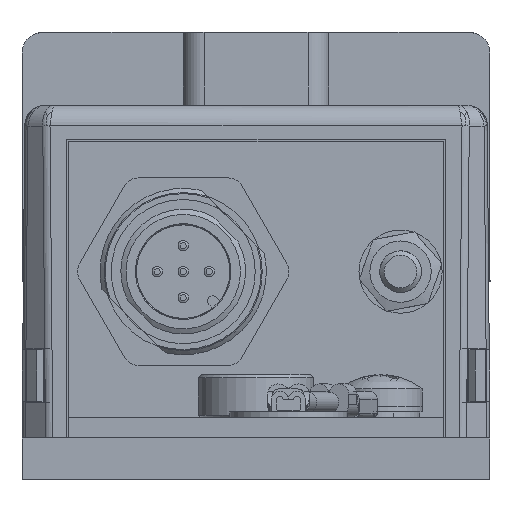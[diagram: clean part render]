
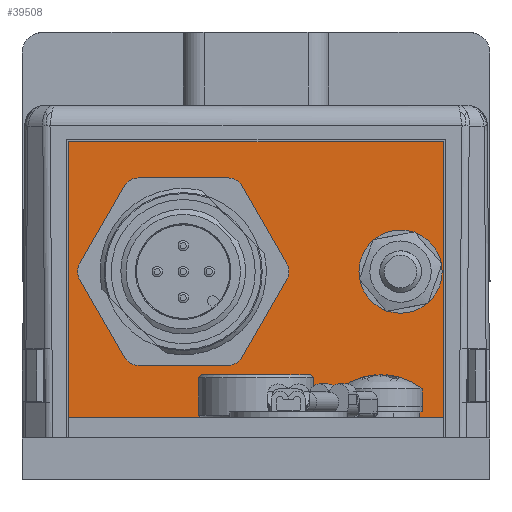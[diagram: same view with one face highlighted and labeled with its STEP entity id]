
A CAD part, left-side view. The second image highlights one B-rep face of the part: STEP entity #39508.
In plain terms, the highlighted planar face has unit normal (-1, 0, 0) as drawn and (1, 0, 0) by its records, which use the part's own axes.
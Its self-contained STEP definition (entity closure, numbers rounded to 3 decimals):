
#11285=CIRCLE('',#38369,7.75);
#11286=CIRCLE('',#38370,2.25);
#12321=ORIENTED_EDGE('',*,*,#16183,.T.);
#12322=ORIENTED_EDGE('',*,*,#16187,.T.);
#12323=ORIENTED_EDGE('',*,*,#16192,.T.);
#12324=ORIENTED_EDGE('',*,*,#16193,.F.);
#12325=ORIENTED_EDGE('',*,*,#16194,.F.);
#12326=ORIENTED_EDGE('',*,*,#16195,.F.);
#14012=VECTOR('',#19663,1.);
#14016=VECTOR('',#19669,1.);
#14019=VECTOR('',#19678,1.);
#14020=VECTOR('',#19679,1.);
#14573=LINE('',#22363,#14012);
#14577=LINE('',#22370,#14016);
#14580=LINE('',#22380,#14019);
#14581=LINE('',#22381,#14020);
#15273=VERTEX_POINT('',#22359);
#15275=VERTEX_POINT('',#22362);
#15277=VERTEX_POINT('',#22369);
#15281=VERTEX_POINT('',#22379);
#15282=VERTEX_POINT('',#22382);
#15283=VERTEX_POINT('',#22384);
#16183=EDGE_CURVE('',#15275,#15273,#14573,.T.);
#16187=EDGE_CURVE('',#15273,#15277,#14577,.T.);
#16192=EDGE_CURVE('',#15277,#15281,#14580,.T.);
#16193=EDGE_CURVE('',#15275,#15281,#14581,.T.);
#16194=EDGE_CURVE('',#15282,#15282,#11285,.T.);
#16195=EDGE_CURVE('',#15283,#15283,#11286,.T.);
#17304=EDGE_LOOP('',(#12321,#12322,#12323,#12324));
#17305=EDGE_LOOP('',(#12325));
#17306=EDGE_LOOP('',(#12326));
#18112=FACE_BOUND('',#17304,.T.);
#18113=FACE_BOUND('',#17305,.T.);
#18114=FACE_BOUND('',#17306,.T.);
#19663=DIRECTION('',(0.,0.,-26.5));
#19669=DIRECTION('',(0.,36.,0.));
#19676=DIRECTION('',(1.,0.,0.));
#19677=DIRECTION('',(0.,-1.,0.));
#19678=DIRECTION('',(0.,0.,26.5));
#19679=DIRECTION('',(0.,36.,0.));
#19680=DIRECTION('',(1.,0.,0.));
#19681=DIRECTION('',(0.,-7.75,0.));
#19682=DIRECTION('',(1.,0.,0.));
#19683=DIRECTION('',(0.,-2.25,0.));
#22359=CARTESIAN_POINT('',(0.,0.,0.));
#22362=CARTESIAN_POINT('',(0.,0.,26.5));
#22363=CARTESIAN_POINT('',(0.,0.,26.5));
#22369=CARTESIAN_POINT('',(0.,36.,0.));
#22370=CARTESIAN_POINT('',(0.,0.,0.));
#22378=CARTESIAN_POINT('',(0.,0.,26.5));
#22379=CARTESIAN_POINT('',(0.,36.,26.5));
#22380=CARTESIAN_POINT('',(0.,36.,0.));
#22381=CARTESIAN_POINT('',(0.,0.,26.5));
#22382=CARTESIAN_POINT('',(0.,3.25,14.));
#22383=CARTESIAN_POINT('',(0.,11.,14.));
#22384=CARTESIAN_POINT('',(0.,29.65,14.));
#22385=CARTESIAN_POINT('',(0.,31.9,14.));
#38368=AXIS2_PLACEMENT_3D('',#22378,#19676,#19677);
#38369=AXIS2_PLACEMENT_3D('',#22383,#19680,#19681);
#38370=AXIS2_PLACEMENT_3D('',#22385,#19682,#19683);
#39116=PLANE('',#38368);
#39508=ADVANCED_FACE('',(#18112,#18113,#18114),#39116,.T.);
